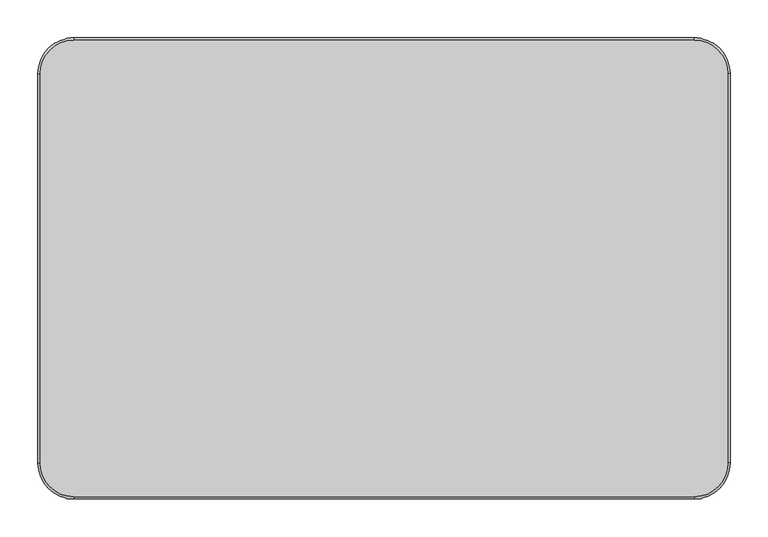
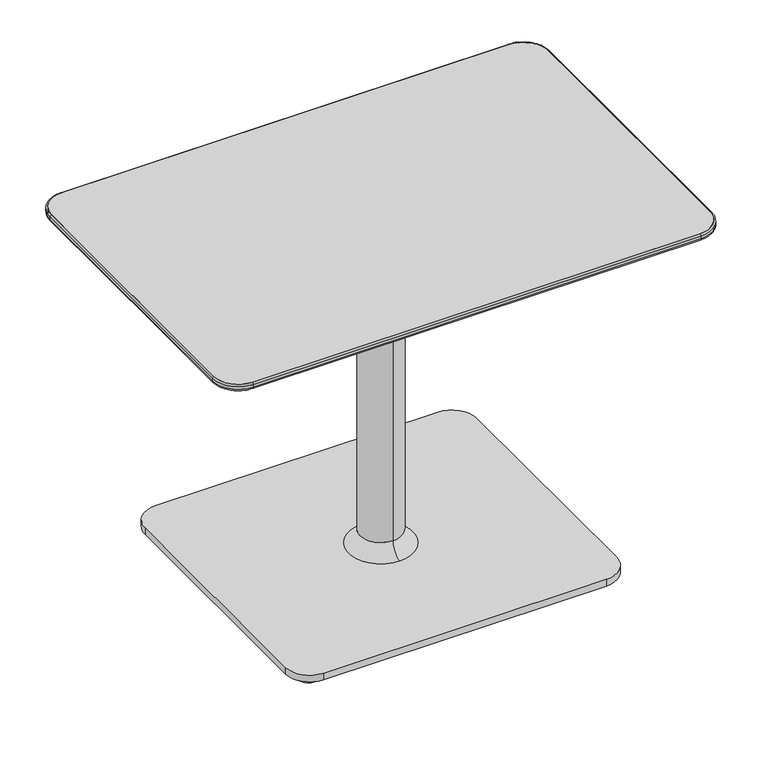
"""IFC4 building model written with IfcOpenShell, lengths in millimetres: furniture geometry, Coalesse_AM_Table_Occasional_Lagunitas_Work : 26H x 24D x 36W."""

from ifc_helpers import new_model, si_unit, point, frame, frame_2d, origin, origin_with_axes, place, context, project, spatial, polyline, circle_curve, ellipse_curve, trimmed, segment, composite_curve, outline, extrude, source, transform, mapped, element, save
from ifc_brep_helpers import plane_surface, cylinder_surface, revolved_surface, spline_surface, advanced_brep


def furniture_45d79633(model_context):
    return source(origin(), model_context, "Body", "SolidModel", [
        advanced_brep(
        [(454.4570059, 257.3038988, 648.3724172), (410.0070059, 301.7538988, 648.3724172), (-409.3969941, 301.7538988, 648.3724172), (-453.8469941, 257.3038988, 648.3724172), (-453.8469941, -257.3038988, 648.3724172), (-409.3969941, -301.7538988, 648.3724172), (410.0070059, -301.7538988, 648.3724172), (454.4570059, -257.3038988, 648.3724172), (386.6389826, 233.9365202, 630.3099277), (386.6389826, -233.9365202, 630.3099277), (-386.0289709, -233.9365202, 630.3099277), (-386.0289709, 233.9365202, 630.3099277)],
        [
            (0, 1, circle_curve(frame((410.0070059, 257.3038988, 648.3724172), z_axis=(0.0, 0.0, 1.0), x_axis=(1.0, 0.0, 0.0)), 44.45)),
            (1, 2),
            (2, 3, circle_curve(frame((-409.3969941, 257.3038988, 648.3724172), z_axis=(0.0, 0.0, 1.0), x_axis=(1.0, 0.0, 0.0)), 44.45)),
            (3, 4),
            (4, 5, circle_curve(frame((-409.3969941, -257.3038988, 648.3724172), z_axis=(0.0, 0.0, 1.0), x_axis=(1.0, 0.0, 0.0)), 44.45)),
            (5, 6),
            (6, 7, circle_curve(frame((410.0070059, -257.3038988, 648.3724172), z_axis=(0.0, 0.0, 1.0), x_axis=(1.0, 0.0, 0.0)), 44.45)),
            (7, 0),
            (8, 9),
            (9, 10),
            (10, 11),
            (11, 8),
            (0, 8),
            (8, 1),
            (11, 2),
            (11, 3),
            (10, 4),
            (10, 5),
            (9, 6),
            (9, 7),
        ],
        [
            plane_surface(frame((0.3050059, 0.0, 648.3724172), z_axis=(0.0, 0.0, 1.0), x_axis=(-1.0, 0.0, 0.0))),
            plane_surface(frame((0.3050059, 0.0, 630.3099277), z_axis=(0.0, 0.0, -1.0), x_axis=(-1.0, 0.0, 0.0))),
            spline_surface(2, 1, [[(386.6389826, 233.9365202, 630.3099277), (454.4570059, 257.3038988, 648.3724172)], [(386.6389826, 233.9365202, 630.3099277), (454.4570059, 301.7538988, 648.3724172)], [(386.6389826, 233.9365202, 630.3099277), (410.0070059, 301.7538988, 648.3724172)]], [3, 3], [2, 2], [0.0, 1.0], [0.0, 1.0], weights=[[1.0, 1.0], [0.7071067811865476, 0.7071067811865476], [1.0, 1.0]]),
            plane_surface(frame((0.3050059, 233.9365202, 630.3099277), z_axis=(0.0, 0.25736805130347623, -0.9663134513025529), x_axis=(-1.0, 0.0, 0.0))),
            spline_surface(2, 1, [[(-386.0289709, 233.9365202, 630.3099277), (-409.3969941, 301.7538988, 648.3724172)], [(-386.0289709, 233.9365202, 630.3099277), (-453.84699409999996, 301.75389879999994, 648.3724172)], [(-386.0289709, 233.9365202, 630.3099277), (-453.8469941, 257.3038988, 648.3724172)]], [3, 3], [2, 2], [0.0, 1.0], [0.0, 1.0], weights=[[1.0, 1.0], [0.707106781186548, 0.707106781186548], [1.0, 1.0]]),
            plane_surface(frame((-386.0289709, 0.0, 630.3099277), z_axis=(-0.2573657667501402, 0.0, -0.9663140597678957), x_axis=(0.0, -1.0, 0.0))),
            spline_surface(2, 1, [[(-386.0289709, -233.9365202, 630.3099277), (-453.8469941, -257.3038988, 648.3724172)], [(-386.0289709, -233.9365202, 630.3099277), (-453.8469941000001, -301.75389880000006, 648.3724172)], [(-386.0289709, -233.9365202, 630.3099277), (-409.3969941, -301.7538988, 648.3724172)]], [3, 3], [2, 2], [0.0, 1.0], [0.0, 1.0], weights=[[1.0, 1.0], [0.7071067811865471, 0.7071067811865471], [1.0, 1.0]]),
            plane_surface(frame((0.3050059, -233.9365202, 630.3099277), z_axis=(0.0, -0.257368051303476, -0.966313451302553), x_axis=(1.0, 0.0, 0.0))),
            spline_surface(2, 1, [[(386.6389826, -233.9365202, 630.3099277), (410.0070059, -301.7538988, 648.3724172)], [(386.6389826, -233.9365202, 630.3099277), (454.4570059, -301.7538988, 648.3724172)], [(386.6389826, -233.9365202, 630.3099277), (454.4570059, -257.3038988, 648.3724172)]], [3, 3], [2, 2], [0.0, 1.0], [0.0, 1.0], weights=[[1.0, 1.0], [0.7071067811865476, 0.7071067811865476], [1.0, 1.0]]),
            plane_surface(frame((386.6389826, 0.0, 630.3099277), z_axis=(0.2573657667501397, 0.0, -0.966314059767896), x_axis=(0.0, 1.0, 0.0))),
        ],
        [
            (0, [[1, 2, 3, 4, 5, 6, 7, 8]]),
            (1, [[9, 10, 11, 12]]),
            (2, [[-1, 13, 14]]),
            (3, [[-12, 15, -2, -14]]),
            (4, [[-3, -15, 16]]),
            (5, [[-11, 17, -4, -16]]),
            (6, [[-5, -17, 18]]),
            (7, [[-10, 19, -6, -18]]),
            (8, [[-7, -19, 20]]),
            (9, [[-9, -13, -8, -20]]),
        ],
    ),
        extrude(outline(composite_curve([segment(trimmed(circle_curve(frame_2d((410.0070059, 257.3038988)), 44.45), [point((410.0070059, 301.7538988))], [point((454.4570059, 257.3038988))], False, "CARTESIAN"), True, "CONTINUOUS"), segment(polyline([(454.4570059, 257.3038988), (454.4570059, -257.3038988)]), True, "CONTINUOUS"), segment(trimmed(circle_curve(frame_2d((410.0070059, -257.3038988)), 44.45), [point((454.4570059, -257.3038988))], [point((410.0070059, -301.7538988))], False, "CARTESIAN"), True, "CONTINUOUS"), segment(polyline([(410.0070059, -301.7538988), (-409.3969941, -301.7538988)]), True, "CONTINUOUS"), segment(trimmed(circle_curve(frame_2d((-409.3969941, -257.3038988)), 44.45), [point((-409.3969941, -301.7538988))], [point((-453.8469941, -257.3038988))], False, "CARTESIAN"), True, "CONTINUOUS"), segment(polyline([(-453.8469941, -257.3038988), (-453.8469941, 257.3038988)]), True, "CONTINUOUS"), segment(trimmed(circle_curve(frame_2d((-409.3969941, 257.3038988)), 44.45), [point((-453.8469941, 257.3038988))], [point((-409.3969941, 301.7538988))], False, "CARTESIAN"), True, "CONTINUOUS"), segment(polyline([(-409.3969941, 301.7538988), (410.0070059, 301.7538988)]), True, "CONTINUOUS")], self_intersect=False)), frame((0.0, 0.0, 648.3724172), z_axis=(0.0, 0.0, 1.0), x_axis=(1.0, 0.0, 0.0)), (0.0, 0.0, 1.0), 12.0275828),
        extrude(outline(composite_curve([segment(trimmed(circle_curve(frame_2d((-263.0703146, 226.8029495)), 25.4), [point((-288.4703146, 226.8029495))], [point((-237.6703146, 226.8029495))], False, "CARTESIAN"), True, "CONTINUOUS"), segment(trimmed(circle_curve(frame_2d((-263.0703146, 226.8029495)), 25.4), [point((-237.6703146, 226.8029495))], [point((-288.4703146, 226.8029495))], False, "CARTESIAN"), True, "CONTINUOUS")], self_intersect=False)), origin_with_axes(), (0.0, 0.0, 1.0), 10.6571495),
        extrude(outline(composite_curve([segment(trimmed(circle_curve(frame_2d((263.6803263, 226.8029495)), 25.4), [point((238.2803263, 226.8029495))], [point((289.0803263, 226.8029495))], False, "CARTESIAN"), True, "CONTINUOUS"), segment(trimmed(circle_curve(frame_2d((263.6803263, 226.8029495)), 25.4), [point((289.0803263, 226.8029495))], [point((238.2803263, 226.8029495))], False, "CARTESIAN"), True, "CONTINUOUS")], self_intersect=False)), origin_with_axes(), (0.0, 0.0, 1.0), 10.6571495),
        extrude(outline(composite_curve([segment(trimmed(circle_curve(frame_2d((263.6803263, -226.8029495)), 25.4), [point((238.2803263, -226.8029495))], [point((289.0803263, -226.8029495))], False, "CARTESIAN"), True, "CONTINUOUS"), segment(trimmed(circle_curve(frame_2d((263.6803263, -226.8029495)), 25.4), [point((289.0803263, -226.8029495))], [point((238.2803263, -226.8029495))], False, "CARTESIAN"), True, "CONTINUOUS")], self_intersect=False)), origin_with_axes(), (0.0, 0.0, 1.0), 10.6571495),
        extrude(outline(composite_curve([segment(trimmed(circle_curve(frame_2d((-263.0703146, -226.8029495)), 25.4), [point((-288.4703146, -226.8029495))], [point((-237.6703146, -226.8029495))], False, "CARTESIAN"), True, "CONTINUOUS"), segment(trimmed(circle_curve(frame_2d((-263.0703146, -226.8029495)), 25.4), [point((-237.6703146, -226.8029495))], [point((-288.4703146, -226.8029495))], False, "CARTESIAN"), True, "CONTINUOUS")], self_intersect=False)), origin_with_axes(), (0.0, 0.0, 1.0), 10.6571495),
        extrude(outline(composite_curve([segment(trimmed(circle_curve(frame_2d((259.1310059, 222.2481833)), 44.45), [point((259.1310059, 266.6981833))], [point((303.5810059, 222.2481833))], False, "CARTESIAN"), True, "CONTINUOUS"), segment(polyline([(303.5810059, 222.2481833), (303.5810059, -222.2481833)]), True, "CONTINUOUS"), segment(trimmed(circle_curve(frame_2d((259.1310059, -222.2481833)), 44.45), [point((303.5810059, -222.2481833))], [point((259.1310059, -266.6981833))], False, "CARTESIAN"), True, "CONTINUOUS"), segment(polyline([(259.1310059, -266.6981833), (-258.5209941, -266.6981833)]), True, "CONTINUOUS"), segment(trimmed(circle_curve(frame_2d((-258.5209941, -222.2481833)), 44.45), [point((-258.5209941, -266.6981833))], [point((-302.9709941, -222.2481833))], False, "CARTESIAN"), True, "CONTINUOUS"), segment(polyline([(-302.9709941, -222.2481833), (-302.9709941, 222.2481833)]), True, "CONTINUOUS"), segment(trimmed(circle_curve(frame_2d((-258.5209941, 222.2481833)), 44.45), [point((-302.9709941, 222.2481833))], [point((-258.5209941, 266.6981833))], False, "CARTESIAN"), True, "CONTINUOUS"), segment(polyline([(-258.5209941, 266.6981833), (259.1310059, 266.6981833)]), True, "CONTINUOUS")], self_intersect=False)), frame((0.0, 0.0, 10.6571495), z_axis=(0.0, 0.0, 1.0), x_axis=(1.0, 0.0, 0.0)), (0.0, 0.0, 1.0), 12.7000004),
        advanced_brep(
        [(-456.8930954, 257.3038988, 652.1656816), (-409.3969941, 304.8, 652.1656816), (-409.3969941, 301.7538988, 648.3724172), (-453.8469941, 257.3038988, 648.3724172), (-456.8930954, 257.3038988, 657.3538988), (-409.3969941, 304.8, 657.3538988), (-453.8469941, 257.3038988, 660.4), (-409.3969941, 301.7538988, 660.4), (-453.8469941, -257.3038988, 648.3724172), (-456.8930954, -257.3038988, 652.1656816), (-456.8930954, -257.3038988, 657.3538988), (-453.8469941, -257.3038988, 660.4), (-409.3969941, -304.8, 652.1656816), (-409.3969941, -301.7538988, 648.3724172), (-409.3969941, -304.8, 657.3538988), (-409.3969941, -301.7538988, 660.4), (410.0070059, -301.7538988, 648.3724172), (410.0070059, -304.8, 652.1656816), (410.0070059, -304.8, 657.3538988), (410.0070059, -301.7538988, 660.4), (457.5031071, -257.3038988, 652.1656816), (454.4570059, -257.3038988, 648.3724172), (457.5031071, -257.3038988, 657.3538988), (454.4570059, -257.3038988, 660.4), (454.4570059, 257.3038988, 648.3724172), (457.5031071, 257.3038988, 652.1656816), (457.5031071, 257.3038988, 657.3538988), (454.4570059, 257.3038988, 660.4), (410.0070059, 304.8, 652.1656816), (410.0070059, 301.7538988, 648.3724172), (410.0070059, 304.8, 657.3538988), (410.0070059, 301.7538988, 660.4)],
        [
            (0, 1, circle_curve(frame((-409.3969941, 257.3038988, 652.1656816), z_axis=(0.0, 0.0, -1.0), x_axis=(0.0, 1.0, 0.0)), 47.4961012)),
            (1, 2, circle_curve(frame((-409.3969941, 300.9151017, 652.1656816), z_axis=(-1.0, 0.0, 0.0), x_axis=(0.0, -1.0, 0.0)), 3.8848983)),
            (2, 3, circle_curve(frame((-409.3969941, 257.3038988, 648.3724172), z_axis=(0.0, 0.0, 1.0), x_axis=(0.0, 1.0, 0.0)), 44.45)),
            (3, 0, circle_curve(frame((-453.0081971, 257.3038988, 652.1656816), z_axis=(0.0, 1.0, 0.0), x_axis=(1.0, 0.0, 0.0)), 3.8848983)),
            (4, 5, circle_curve(frame((-409.3969941, 257.3038988, 657.3538988), z_axis=(0.0, 0.0, -1.0), x_axis=(0.0, 1.0, 0.0)), 47.4961012)),
            (5, 1),
            (0, 4),
            (6, 7, circle_curve(frame((-409.3969941, 257.3038988, 660.4), z_axis=(0.0, 0.0, -1.0), x_axis=(0.0, 1.0, 0.0)), 44.45)),
            (7, 5, circle_curve(frame((-409.3969941, 301.7538988, 657.3538988), z_axis=(-1.0, 0.0, 0.0), x_axis=(0.0, -1.0, 0.0)), 3.0461012)),
            (4, 6, circle_curve(frame((-453.8469941, 257.3038988, 657.3538988), z_axis=(0.0, 1.0, 0.0), x_axis=(1.0, 0.0, 0.0)), 3.0461012)),
            (2, 7),
            (6, 3),
            (3, 8),
            (8, 9, circle_curve(frame((-453.0081971, -257.3038988, 652.1656816), z_axis=(0.0, 1.0, 0.0), x_axis=(1.0, 0.0, 0.0)), 3.8848983)),
            (9, 0),
            (9, 10),
            (10, 4),
            (10, 11, circle_curve(frame((-453.8469941, -257.3038988, 657.3538988), z_axis=(0.0, 1.0, 0.0), x_axis=(1.0, 0.0, 0.0)), 3.0461012)),
            (11, 6),
            (11, 8),
            (12, 9, circle_curve(frame((-409.3969941, -257.3038988, 652.1656816), z_axis=(0.0, 0.0, -1.0), x_axis=(-1.0, 0.0, 0.0)), 47.4961012)),
            (8, 13, circle_curve(frame((-409.3969941, -257.3038988, 648.3724172), z_axis=(0.0, 0.0, 1.0), x_axis=(-1.0, 0.0, 0.0)), 44.45)),
            (13, 12, circle_curve(frame((-409.3969941, -300.9151017, 652.1656816), z_axis=(-1.0, 0.0, 0.0), x_axis=(0.0, 1.0, 0.0)), 3.8848983)),
            (14, 10, circle_curve(frame((-409.3969941, -257.3038988, 657.3538988), z_axis=(0.0, 0.0, -1.0), x_axis=(-1.0, 0.0, 0.0)), 47.4961012)),
            (12, 14),
            (15, 11, circle_curve(frame((-409.3969941, -257.3038988, 660.4), z_axis=(0.0, 0.0, -1.0), x_axis=(-1.0, 0.0, 0.0)), 44.45)),
            (14, 15, circle_curve(frame((-409.3969941, -301.7538988, 657.3538988), z_axis=(-1.0, 0.0, 0.0), x_axis=(0.0, 1.0, 0.0)), 3.0461012)),
            (15, 13),
            (13, 16),
            (16, 17, circle_curve(frame((410.0070059, -300.9151017, 652.1656816), z_axis=(-1.0, 0.0, 0.0), x_axis=(0.0, 1.0, 0.0)), 3.8848983)),
            (17, 12),
            (17, 18),
            (18, 14),
            (18, 19, circle_curve(frame((410.0070059, -301.7538988, 657.3538988), z_axis=(-1.0, 0.0, 0.0), x_axis=(0.0, 1.0, 0.0)), 3.0461012)),
            (19, 15),
            (19, 16),
            (20, 17, circle_curve(frame((410.0070059, -257.3038988, 652.1656816), z_axis=(0.0, 0.0, -1.0), x_axis=(0.0, -1.0, 0.0)), 47.4961012)),
            (16, 21, circle_curve(frame((410.0070059, -257.3038988, 648.3724172), z_axis=(0.0, 0.0, 1.0), x_axis=(0.0, -1.0, 0.0)), 44.45)),
            (21, 20, circle_curve(frame((453.6182088, -257.3038988, 652.1656816), z_axis=(0.0, -1.0, 0.0), x_axis=(-1.0, 0.0, 0.0)), 3.8848983)),
            (22, 18, circle_curve(frame((410.0070059, -257.3038988, 657.3538988), z_axis=(0.0, 0.0, -1.0), x_axis=(0.0, -1.0, 0.0)), 47.4961012)),
            (20, 22),
            (23, 19, circle_curve(frame((410.0070059, -257.3038988, 660.4), z_axis=(0.0, 0.0, -1.0), x_axis=(0.0, -1.0, 0.0)), 44.45)),
            (22, 23, circle_curve(frame((454.4570059, -257.3038988, 657.3538988), z_axis=(0.0, -1.0, 0.0), x_axis=(-1.0, 0.0, 0.0)), 3.0461012)),
            (23, 21),
            (21, 24),
            (24, 25, circle_curve(frame((453.6182088, 257.3038988, 652.1656816), z_axis=(0.0, -1.0, 0.0), x_axis=(-1.0, 0.0, 0.0)), 3.8848983)),
            (25, 20),
            (25, 26),
            (26, 22),
            (26, 27, circle_curve(frame((454.4570059, 257.3038988, 657.3538988), z_axis=(0.0, -1.0, 0.0), x_axis=(-1.0, 0.0, 0.0)), 3.0461012)),
            (27, 23),
            (27, 24),
            (28, 25, circle_curve(frame((410.0070059, 257.3038988, 652.1656816), z_axis=(0.0, 0.0, -1.0), x_axis=(1.0, 0.0, 0.0)), 47.4961012)),
            (24, 29, circle_curve(frame((410.0070059, 257.3038988, 648.3724172), z_axis=(0.0, 0.0, 1.0), x_axis=(1.0, 0.0, 0.0)), 44.45)),
            (29, 28, circle_curve(frame((410.0070059, 300.9151017, 652.1656816), z_axis=(1.0, 0.0, 0.0), x_axis=(0.0, -1.0, 0.0)), 3.8848983)),
            (30, 26, circle_curve(frame((410.0070059, 257.3038988, 657.3538988), z_axis=(0.0, 0.0, -1.0), x_axis=(1.0, 0.0, 0.0)), 47.4961012)),
            (28, 30),
            (31, 27, circle_curve(frame((410.0070059, 257.3038988, 660.4), z_axis=(0.0, 0.0, -1.0), x_axis=(1.0, 0.0, 0.0)), 44.45)),
            (30, 31, circle_curve(frame((410.0070059, 301.7538988, 657.3538988), z_axis=(1.0, 0.0, 0.0), x_axis=(0.0, -1.0, 0.0)), 3.0461012)),
            (31, 29),
            (29, 2),
            (1, 28),
            (5, 30),
            (7, 31),
        ],
        [
            revolved_surface(trimmed(ellipse_curve(frame((-409.3969941, 300.9151017, 652.1656816), z_axis=(1.0, 0.0, 0.0), x_axis=(0.0, -1.0, 0.0)), 3.8848983, 3.8848983), [point((-409.3969941, 301.7538988, 648.3724172))], [point((-409.3969941, 304.8, 652.1656816))], True, "CARTESIAN"), (-409.3969941, 257.3038988, 0.0), (0.0, 0.0, 1.0)),
            cylinder_surface(frame((-409.3969941, 257.3038988, 0.0), z_axis=(0.0, 0.0, 1.0), x_axis=(0.0, 1.0, 0.0)), 47.4961012),
            revolved_surface(trimmed(ellipse_curve(frame((-409.3969941, 301.7538988, 657.3538988), z_axis=(1.0, 0.0, 0.0), x_axis=(0.0, -1.0, 0.0)), 3.0461012, 3.0461012), [point((-409.3969941, 304.8, 657.3538988))], [point((-409.3969941, 301.7538988, 660.4))], True, "CARTESIAN"), (-409.3969941, 257.3038988, 0.0), (0.0, 0.0, 1.0)),
            revolved_surface(polyline([(-409.3969941, 301.7538988, 660.4), (-409.3969941, 301.7538988, 648.3724172)]), (-409.3969941, 257.3038988, 0.0), (0.0, 0.0, 1.0)),
            cylinder_surface(frame((-453.0081971, 257.3038988, 652.1656816), z_axis=(0.0, 1.0, 0.0), x_axis=(1.0, 0.0, 0.0)), 3.8848983),
            plane_surface(frame((-456.8930954, 257.3038988, 652.1656816), z_axis=(-1.0, 0.0, 0.0), x_axis=(0.0, -1.0, 0.0))),
            cylinder_surface(frame((-453.8469941, 257.3038988, 657.3538988), z_axis=(0.0, 1.0, 0.0), x_axis=(1.0, 0.0, 0.0)), 3.0461012),
            plane_surface(frame((-453.8469941, 257.3038988, 660.4), z_axis=(1.0, 0.0, 0.0), x_axis=(0.0, -1.0, 0.0))),
            revolved_surface(trimmed(ellipse_curve(frame((-453.0081971, -257.3038988, 652.1656816), z_axis=(0.0, 1.0, 0.0), x_axis=(1.0, 0.0, 0.0)), 3.8848983, 3.8848983), [point((-453.8469941, -257.3038988, 648.3724172))], [point((-456.8930954, -257.3038988, 652.1656816))], True, "CARTESIAN"), (-409.3969941, -257.3038988, 0.0), (0.0, 0.0, 1.0)),
            cylinder_surface(frame((-409.3969941, -257.3038988, 0.0), z_axis=(0.0, 0.0, 1.0), x_axis=(-1.0, 0.0, 0.0)), 47.4961012),
            revolved_surface(trimmed(ellipse_curve(frame((-453.8469941, -257.3038988, 657.3538988), z_axis=(0.0, 1.0, 0.0), x_axis=(1.0, 0.0, 0.0)), 3.0461012, 3.0461012), [point((-456.8930954, -257.3038988, 657.3538988))], [point((-453.8469941, -257.3038988, 660.4))], True, "CARTESIAN"), (-409.3969941, -257.3038988, 0.0), (0.0, 0.0, 1.0)),
            revolved_surface(polyline([(-453.84699409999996, -257.3038988, 660.4), (-453.84699409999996, -257.3038988, 648.3724172)]), (-409.3969941, -257.3038988, 0.0), (0.0, 0.0, 1.0)),
            cylinder_surface(frame((-409.3969941, -300.9151017, 652.1656816), z_axis=(-1.0, 0.0, 0.0), x_axis=(0.0, 1.0, 0.0)), 3.8848983),
            plane_surface(frame((-409.3969941, -304.8, 652.1656816), z_axis=(0.0, -1.0, 0.0), x_axis=(1.0, 0.0, 0.0))),
            cylinder_surface(frame((-409.3969941, -301.7538988, 657.3538988), z_axis=(-1.0, 0.0, 0.0), x_axis=(0.0, 1.0, 0.0)), 3.0461012),
            plane_surface(frame((-409.3969941, -301.7538988, 660.4), z_axis=(0.0, 1.0, 0.0), x_axis=(1.0, 0.0, 0.0))),
            revolved_surface(trimmed(ellipse_curve(frame((410.0070059, -300.9151017, 652.1656816), z_axis=(-1.0, 0.0, 0.0), x_axis=(0.0, 1.0, 0.0)), 3.8848983, 3.8848983), [point((410.0070059, -301.7538988, 648.3724172))], [point((410.0070059, -304.8, 652.1656816))], True, "CARTESIAN"), (410.0070059, -257.3038988, 0.0), (0.0, 0.0, 1.0)),
            cylinder_surface(frame((410.0070059, -257.3038988, 0.0), z_axis=(0.0, 0.0, 1.0), x_axis=(0.0, -1.0, 0.0)), 47.4961012),
            revolved_surface(trimmed(ellipse_curve(frame((410.0070059, -301.7538988, 657.3538988), z_axis=(-1.0, 0.0, 0.0), x_axis=(0.0, 1.0, 0.0)), 3.0461012, 3.0461012), [point((410.0070059, -304.8, 657.3538988))], [point((410.0070059, -301.7538988, 660.4))], True, "CARTESIAN"), (410.0070059, -257.3038988, 0.0), (0.0, 0.0, 1.0)),
            revolved_surface(polyline([(410.0070059, -301.7538988, 660.4), (410.0070059, -301.7538988, 648.3724172)]), (410.0070059, -257.3038988, 0.0), (0.0, 0.0, 1.0)),
            cylinder_surface(frame((453.6182088, -257.3038988, 652.1656816), z_axis=(0.0, -1.0, 0.0), x_axis=(-1.0, 0.0, 0.0)), 3.8848983),
            plane_surface(frame((457.5031071, -257.3038988, 652.1656816), z_axis=(1.0, 0.0, 0.0), x_axis=(0.0, 1.0, 0.0))),
            cylinder_surface(frame((454.4570059, -257.3038988, 657.3538988), z_axis=(0.0, -1.0, 0.0), x_axis=(-1.0, 0.0, 0.0)), 3.0461012),
            plane_surface(frame((454.4570059, -257.3038988, 660.4), z_axis=(-1.0, 0.0, 0.0), x_axis=(0.0, 1.0, 0.0))),
            revolved_surface(trimmed(ellipse_curve(frame((453.6182088, 257.3038988, 652.1656816), z_axis=(0.0, -1.0, 0.0), x_axis=(-1.0, 0.0, 0.0)), 3.8848983, 3.8848983), [point((454.4570059, 257.3038988, 648.3724172))], [point((457.5031071, 257.3038988, 652.1656816))], True, "CARTESIAN"), (410.0070059, 257.3038988, 0.0), (0.0, 0.0, 1.0)),
            cylinder_surface(frame((410.0070059, 257.3038988, 0.0), z_axis=(0.0, 0.0, 1.0), x_axis=(1.0, 0.0, 0.0)), 47.4961012),
            revolved_surface(trimmed(ellipse_curve(frame((454.4570059, 257.3038988, 657.3538988), z_axis=(0.0, -1.0, 0.0), x_axis=(-1.0, 0.0, 0.0)), 3.0461012, 3.0461012), [point((457.5031071, 257.3038988, 657.3538988))], [point((454.4570059, 257.3038988, 660.4))], True, "CARTESIAN"), (410.0070059, 257.3038988, 0.0), (0.0, 0.0, 1.0)),
            revolved_surface(polyline([(454.4570059, 257.3038988, 660.4), (454.4570059, 257.3038988, 648.3724172)]), (410.0070059, 257.3038988, 0.0), (0.0, 0.0, 1.0)),
            cylinder_surface(frame((410.0070059, 300.9151017, 652.1656816), z_axis=(1.0, 0.0, 0.0), x_axis=(0.0, -1.0, 0.0)), 3.8848983),
            plane_surface(frame((410.0070059, 304.8, 652.1656816), z_axis=(0.0, 1.0, 0.0), x_axis=(-1.0, 0.0, 0.0))),
            cylinder_surface(frame((410.0070059, 301.7538988, 657.3538988), z_axis=(1.0, 0.0, 0.0), x_axis=(0.0, -1.0, 0.0)), 3.0461012),
            plane_surface(frame((410.0070059, 301.7538988, 660.4), z_axis=(0.0, -1.0, 0.0), x_axis=(-1.0, 0.0, 0.0))),
        ],
        [
            (0, [[1, 2, 3, 4]]),
            (1, [[5, 6, -1, 7]]),
            (2, [[8, 9, -5, 10]]),
            (3, [[-3, 11, -8, 12]]),
            (4, [[-4, 13, 14, 15]]),
            (5, [[-7, -15, 16, 17]]),
            (6, [[-10, -17, 18, 19]]),
            (7, [[-12, -19, 20, -13]]),
            (8, [[21, -14, 22, 23]]),
            (9, [[24, -16, -21, 25]]),
            (10, [[26, -18, -24, 27]]),
            (11, [[-22, -20, -26, 28]]),
            (12, [[-23, 29, 30, 31]]),
            (13, [[-25, -31, 32, 33]]),
            (14, [[-27, -33, 34, 35]]),
            (15, [[-28, -35, 36, -29]]),
            (16, [[37, -30, 38, 39]]),
            (17, [[40, -32, -37, 41]]),
            (18, [[42, -34, -40, 43]]),
            (19, [[-38, -36, -42, 44]]),
            (20, [[-39, 45, 46, 47]]),
            (21, [[-41, -47, 48, 49]]),
            (22, [[-43, -49, 50, 51]]),
            (23, [[-44, -51, 52, -45]]),
            (24, [[53, -46, 54, 55]]),
            (25, [[56, -48, -53, 57]]),
            (26, [[58, -50, -56, 59]]),
            (27, [[-54, -52, -58, 60]]),
            (28, [[-55, 61, -2, 62]]),
            (29, [[-57, -62, -6, 63]]),
            (30, [[-59, -63, -9, 64]]),
            (31, [[-60, -64, -11, -61]]),
        ],
    ),
        advanced_brep(
        [(0.3050059, -37.9287895, 500.8567695), (0.3050059, 37.9287895, 500.8567695), (0.3050059, 37.9287895, 50.0429711), (0.3050059, -37.9287895, 50.0429711), (0.3050059, -59.3395816, 538.8698908), (0.3050059, 59.3395816, 538.8698908), (0.3050059, -197.9068019, 622.8534968), (0.3050059, 197.9068019, 622.8534968), (0.3050059, -212.4265152, 626.9101307), (0.3050059, 212.4265152, 626.9101307), (0.3050059, -226.4292749, 626.9101307), (0.3050059, 226.4292749, 626.9101307), (0.3050059, -228.4774392, 630.3099277), (0.3050059, 228.4774392, 630.3099277), (0.3050059, 0.0, 630.3099277), (0.3050059, -60.2304855, 23.3571499), (0.3050059, 60.2304855, 23.3571499), (0.3050059, 0.0, 23.3571499)],
        [
            (0, 1, circle_curve(frame((0.3050059, 0.0, 500.8567695), z_axis=(0.0, 0.0, -1.0), x_axis=(0.0, 1.0, 0.0)), 37.9287895)),
            (1, 2),
            (2, 3, circle_curve(frame((0.3050059, 0.0, 50.0429711), z_axis=(0.0, 0.0, 1.0), x_axis=(0.0, 1.0, 0.0)), 37.9287895)),
            (3, 0),
            (1, 0, circle_curve(frame((0.3050059, 0.0, 500.8567695), z_axis=(0.0, 0.0, -1.0), x_axis=(0.0, 1.0, 0.0)), 37.9287895)),
            (3, 2, circle_curve(frame((0.3050059, 0.0, 50.0429711), z_axis=(0.0, 0.0, 1.0), x_axis=(0.0, 1.0, 0.0)), 37.9287895)),
            (4, 5, circle_curve(frame((0.3050059, 0.0, 538.8698908), z_axis=(0.0, 0.0, -1.0), x_axis=(0.0, 1.0, 0.0)), 59.3395816)),
            (5, 1, circle_curve(frame((0.3050059, 82.3787895, 500.8567695), z_axis=(1.0, 0.0, 0.0), x_axis=(0.0, 1.0, 0.0)), 44.45)),
            (0, 4, circle_curve(frame((0.3050059, -82.3787895, 500.8567695), z_axis=(1.0, 0.0, 0.0), x_axis=(0.0, -1.0, 0.0)), 44.45)),
            (5, 4, circle_curve(frame((0.3050059, 0.0, 538.8698908), z_axis=(0.0, 0.0, -1.0), x_axis=(0.0, 1.0, 0.0)), 59.3395816)),
            (6, 7, circle_curve(frame((0.3050059, 0.0, 622.8534968), z_axis=(0.0, 0.0, -1.0), x_axis=(0.0, 1.0, 0.0)), 197.9068019)),
            (7, 5),
            (4, 6),
            (7, 6, circle_curve(frame((0.3050059, 0.0, 622.8534968), z_axis=(0.0, 0.0, -1.0), x_axis=(0.0, 1.0, 0.0)), 197.9068019)),
            (8, 9, circle_curve(frame((0.3050059, 0.0, 626.9101307), z_axis=(0.0, 0.0, -1.0), x_axis=(0.0, 1.0, 0.0)), 212.4265152)),
            (9, 7, circle_curve(frame((0.3050059, 212.4265152, 598.8969605), z_axis=(1.0, 0.0, 0.0), x_axis=(0.0, 1.0, 0.0)), 28.0131702)),
            (6, 8, circle_curve(frame((0.3050059, -212.4265152, 598.8969605), z_axis=(1.0, 0.0, 0.0), x_axis=(0.0, -1.0, 0.0)), 28.0131702)),
            (9, 8, circle_curve(frame((0.3050059, 0.0, 626.9101307), z_axis=(0.0, 0.0, -1.0), x_axis=(0.0, 1.0, 0.0)), 212.4265152)),
            (10, 11, circle_curve(frame((0.3050059, 0.0, 626.9101307), z_axis=(0.0, 0.0, -1.0), x_axis=(0.0, 1.0, 0.0)), 226.4292749)),
            (11, 9),
            (8, 10),
            (11, 10, circle_curve(frame((0.3050059, 0.0, 626.9101307), z_axis=(0.0, 0.0, -1.0), x_axis=(0.0, 1.0, 0.0)), 226.4292749)),
            (12, 13, circle_curve(frame((0.3050059, 0.0, 630.3099277), z_axis=(0.0, 0.0, -1.0), x_axis=(0.0, 1.0, 0.0)), 228.4774392)),
            (13, 11, circle_curve(frame((0.3050059, 226.4292749, 629.2269744), z_axis=(-1.0, 0.0, 0.0), x_axis=(0.0, 1.0, 0.0)), 2.3168437)),
            (10, 12, circle_curve(frame((0.3050059, -226.4292749, 629.2269744), z_axis=(-1.0, 0.0, 0.0), x_axis=(0.0, -1.0, 0.0)), 2.3168437)),
            (13, 12, circle_curve(frame((0.3050059, 0.0, 630.3099277), z_axis=(0.0, 0.0, -1.0), x_axis=(0.0, 1.0, 0.0)), 228.4774392)),
            (14, 13),
            (12, 14),
            (15, 16, circle_curve(frame((0.3050059, 0.0, 23.3571499), z_axis=(0.0, 0.0, -1.0), x_axis=(0.0, 1.0, 0.0)), 60.2304855)),
            (16, 17),
            (17, 15),
            (16, 15, circle_curve(frame((0.3050059, 0.0, 23.3571499), z_axis=(0.0, 0.0, -1.0), x_axis=(0.0, 1.0, 0.0)), 60.2304855)),
            (2, 16, circle_curve(frame((0.3050059, 65.045532, 50.0429711), z_axis=(1.0, 0.0, 0.0), x_axis=(0.0, 1.0, 0.0)), 27.1167425)),
            (15, 3, circle_curve(frame((0.3050059, -65.045532, 50.0429711), z_axis=(1.0, 0.0, 0.0), x_axis=(0.0, -1.0, 0.0)), 27.1167425)),
        ],
        [
            cylinder_surface(frame((0.3050059, 0.0, 738.2745102), z_axis=(0.0, 0.0, 1.0), x_axis=(0.0, 1.0, 0.0)), 37.9287895),
            revolved_surface(trimmed(ellipse_curve(frame((0.3050059, 82.3787895, 500.8567695), z_axis=(-1.0, 0.0, 0.0), x_axis=(0.0, 1.0, 0.0)), 44.45, 44.45), [point((0.3050059, 37.9287895, 500.8567695))], [point((0.3050059, 59.3395816, 538.8698908))], True, "CARTESIAN"), (0.3050059, 0.0, 738.2745102), (0.0, 0.0, 1.0)),
            revolved_surface(polyline([(0.3050059, 59.3395816, 538.8698908), (0.3050059, 197.9068019, 622.8534968)]), (0.3050059, 0.0, 738.2745102), (0.0, 0.0, 1.0)),
            revolved_surface(trimmed(ellipse_curve(frame((0.3050059, 212.4265152, 598.8969605), z_axis=(-1.0, 0.0, 0.0), x_axis=(0.0, 1.0, 0.0)), 28.0131702, 28.0131702), [point((0.3050059, 197.9068019, 622.8534968))], [point((0.3050059, 212.4265152, 626.9101307))], True, "CARTESIAN"), (0.3050059, 0.0, 738.2745102), (0.0, 0.0, 1.0)),
            plane_surface(frame((0.3050059, 0.0, 626.9101307), z_axis=(0.0, 0.0, -1.0), x_axis=(0.0, 1.0, 0.0))),
            revolved_surface(trimmed(ellipse_curve(frame((0.3050059, 226.4292749, 629.2269744), z_axis=(1.0, 0.0, 0.0), x_axis=(0.0, 1.0, 0.0)), 2.3168437, 2.3168437), [point((0.3050059, 226.4292749, 626.9101307))], [point((0.3050059, 228.4774392, 630.3099277))], True, "CARTESIAN"), (0.3050059, 0.0, 738.2745102), (0.0, 0.0, 1.0)),
            plane_surface(frame((0.3050059, 0.0, 630.3099277), z_axis=(0.0, 0.0, 1.0), x_axis=(0.0, 1.0, 0.0))),
            plane_surface(frame((0.3050059, 0.0, 23.3571499), z_axis=(0.0, 0.0, -1.0), x_axis=(0.0, 1.0, 0.0))),
            revolved_surface(trimmed(ellipse_curve(frame((0.3050059, 65.045532, 50.0429711), z_axis=(-1.0, 0.0, 0.0), x_axis=(0.0, 1.0, 0.0)), 27.1167425, 27.1167425), [point((0.3050059, 60.2304855, 23.3571499))], [point((0.3050059, 37.9287895, 50.0429711))], True, "CARTESIAN"), (0.3050059, 0.0, 738.2745102), (0.0, 0.0, 1.0)),
        ],
        [
            (0, [[1, 2, 3, 4]]),
            (0, [[5, -4, 6, -2]]),
            (1, [[7, 8, -1, 9]]),
            (1, [[10, -9, -5, -8]]),
            (2, [[11, 12, -7, 13]]),
            (2, [[14, -13, -10, -12]]),
            (3, [[15, 16, -11, 17]]),
            (3, [[18, -17, -14, -16]]),
            (4, [[19, 20, -15, 21]]),
            (4, [[22, -21, -18, -20]]),
            (5, [[23, 24, -19, 25]]),
            (5, [[26, -25, -22, -24]]),
            (6, [[27, -23, 28]]),
            (6, [[-28, -26, -27]]),
            (7, [[29, 30, 31]]),
            (7, [[32, -31, -30]]),
            (8, [[-3, 33, -29, 34]]),
            (8, [[-6, -34, -32, -33]]),
        ],
    ),
    ])


if __name__ == "__main__":
    model = new_model("IFC4")
    model_context = context("Model", 3, world=origin())
    ifc_project = project(units=[si_unit("LENGTHUNIT", "METRE", prefix="MILLI")], contexts=[model_context])
    site = spatial("IfcSite", under=ifc_project)
    building = spatial("IfcBuilding", under=site)
    placement = place(None, origin())
    furniture_shape = furniture_45d79633(model_context)
    element("IfcFurniture", 1, ObjectType="Coalesse_AM_Table_Occasional_Lagunitas_Work : 26H x 24D x 36W", at=placement, inside=building, context=model_context, shape_type="MappedRepresentation", body=[
        mapped(furniture_shape, transform((0.0, 0.0, 0.0), x_axis=(1.0, 0.0, 0.0), y_axis=(0.0, 1.0, 0.0), z_axis=(0.0, 0.0, 1.0))),
    ])
    save(model, "model.ifc")
